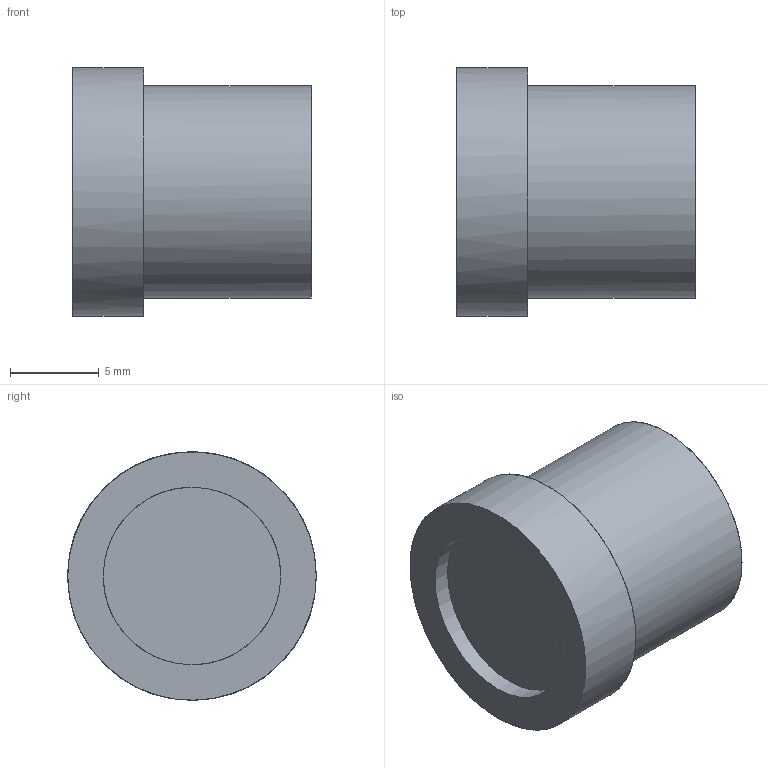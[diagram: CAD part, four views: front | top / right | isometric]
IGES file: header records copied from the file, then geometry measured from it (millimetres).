
Global section: file name: \\leuze.de\dfs01\TempdirOwen\lem\3DCAD_Lens_S_M12_8Fxxx.igs; native system: NX V11.0; preprocessor: SIEMENS PLM Software NX 11.0; date: 20220610.094624; units: millimetre
Bounding box: 13.46 x 14 x 14 mm (x, y, z)
Surface area: 873.9 mm2 (no closed solid volume)
Topology: 0 solids, 0 shells, 7 faces, 64 edges, 61 vertices
Faces by surface type: bspline 7
